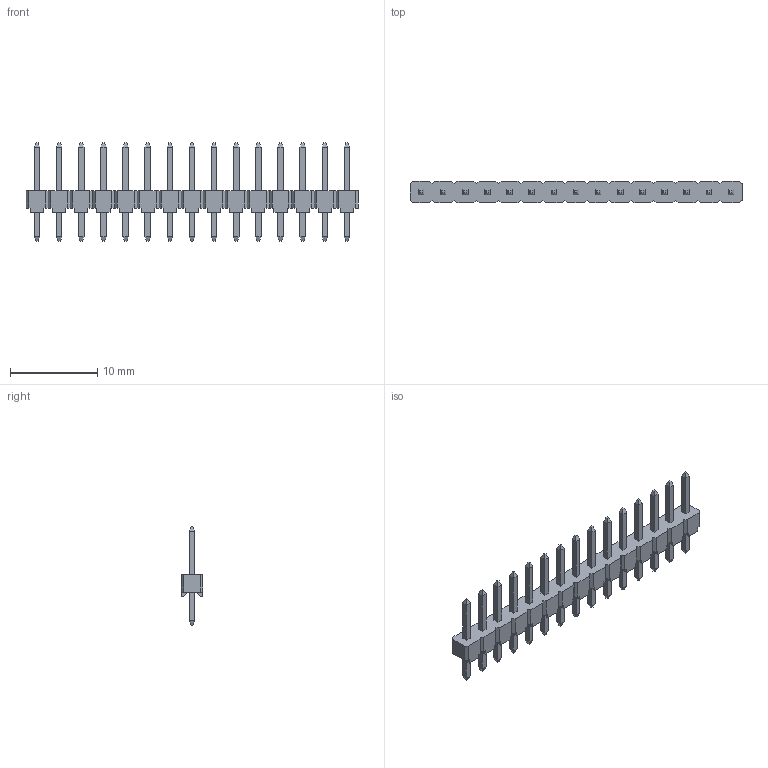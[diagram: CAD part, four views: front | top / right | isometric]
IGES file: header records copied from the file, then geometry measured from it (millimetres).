
Global section: file name: N:\GOLF_VI_2_54mm_UGII\961XXX-6X04-XX (TS-2181)\961115-6404-XX.igs; native system: NX V3.0; preprocessor: UGS NX IGES V4.0; date: 20070618.130345; units: millimetre
Bounding box: 38.1 x 2.5 x 11.3 mm (x, y, z)
Surface area: 740 mm2 (no closed solid volume)
Topology: 0 solids, 0 shells, 516 faces, 2665 edges, 2665 vertices
Faces by surface type: bspline 516
